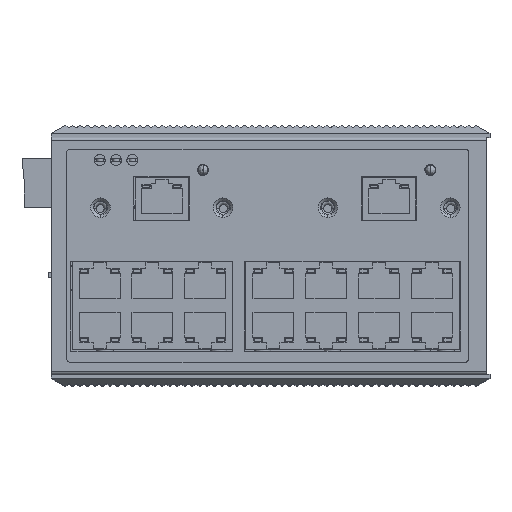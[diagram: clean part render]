
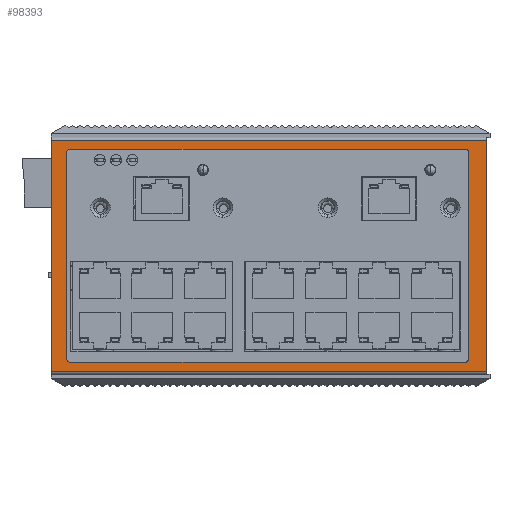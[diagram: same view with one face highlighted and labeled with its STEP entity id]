
A CAD part, top view. The second image highlights one B-rep face of the part: STEP entity #98393.
In plain terms, the highlighted planar face has unit normal (0, 0, 1).
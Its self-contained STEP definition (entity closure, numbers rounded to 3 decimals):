
#96136=DIRECTION('',(-1.,0.,0.));
#96137=VECTOR('',#96136,134.);
#96138=CARTESIAN_POINT('',(68.49,-34.7,49.5));
#96139=LINE('',#96138,#96137);
#96140=DIRECTION('',(0.,1.,0.));
#96141=VECTOR('',#96140,71.1);
#96142=CARTESIAN_POINT('',(68.49,-34.7,49.5));
#96143=LINE('',#96142,#96141);
#96144=DIRECTION('',(0.,-1.,0.));
#96145=VECTOR('',#96144,71.1);
#96146=CARTESIAN_POINT('',(-65.51,36.4,49.5));
#96147=LINE('',#96146,#96145);
#96148=CARTESIAN_POINT('',(61.93,-30.85,49.5));
#96149=DIRECTION('',(0.,0.,-1.));
#96150=DIRECTION('',(1.,0.,0.));
#96151=AXIS2_PLACEMENT_3D('',#96148,#96149,#96150);
#96153=DIRECTION('',(0.,-1.,0.));
#96154=VECTOR('',#96153,63.5);
#96155=CARTESIAN_POINT('',(62.93,32.65,49.5));
#96156=LINE('',#96155,#96154);
#96157=CARTESIAN_POINT('',(61.93,32.65,49.5));
#96158=DIRECTION('',(0.,0.,-1.));
#96159=DIRECTION('',(0.,1.,0.));
#96160=AXIS2_PLACEMENT_3D('',#96157,#96158,#96159);
#96162=DIRECTION('',(1.,0.,0.));
#96163=VECTOR('',#96162,121.76);
#96164=CARTESIAN_POINT('',(-59.83,33.65,49.5));
#96165=LINE('',#96164,#96163);
#96166=CARTESIAN_POINT('',(-59.83,32.65,49.5));
#96167=DIRECTION('',(0.,0.,-1.));
#96168=DIRECTION('',(-1.,0.,0.));
#96169=AXIS2_PLACEMENT_3D('',#96166,#96167,#96168);
#96171=DIRECTION('',(0.,1.,0.));
#96172=VECTOR('',#96171,63.5);
#96173=CARTESIAN_POINT('',(-60.83,-30.85,49.5));
#96174=LINE('',#96173,#96172);
#96175=CARTESIAN_POINT('',(-59.83,-30.85,49.5));
#96176=DIRECTION('',(0.,0.,-1.));
#96177=DIRECTION('',(0.,-1.,0.));
#96178=AXIS2_PLACEMENT_3D('',#96175,#96176,#96177);
#96180=DIRECTION('',(-1.,0.,0.));
#96181=VECTOR('',#96180,121.76);
#96182=CARTESIAN_POINT('',(61.93,-31.85,49.5));
#96183=LINE('',#96182,#96181);
#96184=DIRECTION('',(1.,0.,0.));
#96185=VECTOR('',#96184,134.);
#96186=CARTESIAN_POINT('',(-65.51,36.4,49.5));
#96187=LINE('',#96186,#96185);
#97491=CARTESIAN_POINT('',(-65.51,36.4,49.5));
#97492=VERTEX_POINT('',#97491);
#97493=CARTESIAN_POINT('',(68.49,36.4,49.5));
#97494=VERTEX_POINT('',#97493);
#97559=CARTESIAN_POINT('',(-65.51,-34.7,49.5));
#97560=VERTEX_POINT('',#97559);
#97561=CARTESIAN_POINT('',(68.49,-34.7,49.5));
#97562=VERTEX_POINT('',#97561);
#97607=CARTESIAN_POINT('',(62.93,-30.85,49.5));
#97608=CARTESIAN_POINT('',(61.93,-31.85,49.5));
#97609=VERTEX_POINT('',#97607);
#97610=VERTEX_POINT('',#97608);
#97627=CARTESIAN_POINT('',(-59.83,-31.85,49.5));
#97628=VERTEX_POINT('',#97627);
#97629=CARTESIAN_POINT('',(62.93,32.65,49.5));
#97630=VERTEX_POINT('',#97629);
#97643=CARTESIAN_POINT('',(-60.83,-30.85,49.5));
#97644=VERTEX_POINT('',#97643);
#97645=CARTESIAN_POINT('',(61.93,33.65,49.5));
#97646=VERTEX_POINT('',#97645);
#97663=CARTESIAN_POINT('',(-60.83,32.65,49.5));
#97664=VERTEX_POINT('',#97663);
#97667=CARTESIAN_POINT('',(-59.83,33.65,49.5));
#97668=VERTEX_POINT('',#97667);
#98363=CARTESIAN_POINT('',(68.49,36.4,49.5));
#98364=DIRECTION('',(0.,0.,-1.));
#98365=DIRECTION('',(1.,0.,0.));
#98366=AXIS2_PLACEMENT_3D('',#98363,#98364,#98365);
#98367=PLANE('',#98366);
#98369=ORIENTED_EDGE('',*,*,#98368,.T.);
#98370=ORIENTED_EDGE('',*,*,#98157,.F.);
#98371=ORIENTED_EDGE('',*,*,#98358,.T.);
#98372=ORIENTED_EDGE('',*,*,#98204,.F.);
#98373=EDGE_LOOP('',(#98369,#98370,#98371,#98372));
#98374=FACE_OUTER_BOUND('',#98373,.F.);
#98376=ORIENTED_EDGE('',*,*,#98375,.F.);
#98378=ORIENTED_EDGE('',*,*,#98377,.F.);
#98380=ORIENTED_EDGE('',*,*,#98379,.F.);
#98382=ORIENTED_EDGE('',*,*,#98381,.F.);
#98384=ORIENTED_EDGE('',*,*,#98383,.F.);
#98386=ORIENTED_EDGE('',*,*,#98385,.F.);
#98388=ORIENTED_EDGE('',*,*,#98387,.F.);
#98390=ORIENTED_EDGE('',*,*,#98389,.F.);
#98391=EDGE_LOOP('',(#98376,#98378,#98380,#98382,#98384,#98386,#98388,#98390));
#98392=FACE_BOUND('',#98391,.F.);
#98393=ADVANCED_FACE('',(#98374,#98392),#98367,.F.);
#96152=CIRCLE('',#96151,1.);
#96161=CIRCLE('',#96160,1.);
#96170=CIRCLE('',#96169,1.);
#96179=CIRCLE('',#96178,1.);
#98157=EDGE_CURVE('',#97562,#97494,#96143,.T.);
#98204=EDGE_CURVE('',#97492,#97560,#96147,.T.);
#98358=EDGE_CURVE('',#97562,#97560,#96139,.T.);
#98368=EDGE_CURVE('',#97492,#97494,#96187,.T.);
#98375=EDGE_CURVE('',#97609,#97610,#96152,.T.);
#98377=EDGE_CURVE('',#97630,#97609,#96156,.T.);
#98379=EDGE_CURVE('',#97646,#97630,#96161,.T.);
#98381=EDGE_CURVE('',#97668,#97646,#96165,.T.);
#98383=EDGE_CURVE('',#97664,#97668,#96170,.T.);
#98385=EDGE_CURVE('',#97644,#97664,#96174,.T.);
#98387=EDGE_CURVE('',#97628,#97644,#96179,.T.);
#98389=EDGE_CURVE('',#97610,#97628,#96183,.T.);
